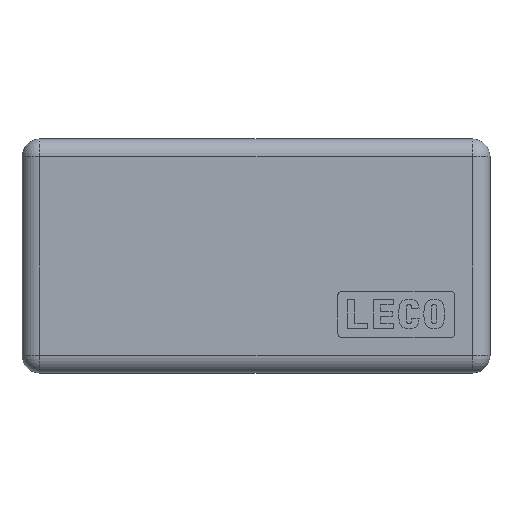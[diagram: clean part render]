
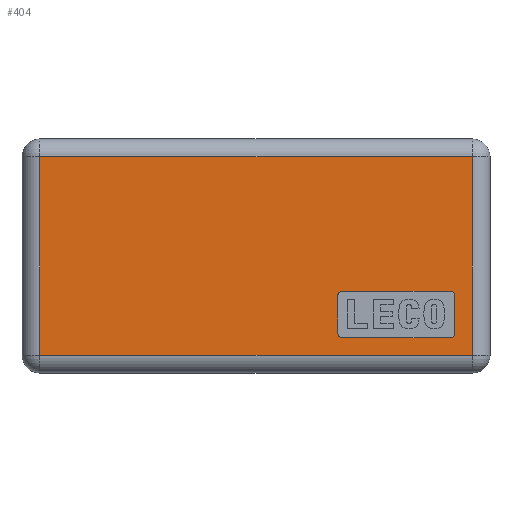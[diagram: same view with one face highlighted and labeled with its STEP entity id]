
A CAD part, top view. The second image highlights one B-rep face of the part: STEP entity #404.
In plain terms, the highlighted planar face has unit normal (0, 0, 1).
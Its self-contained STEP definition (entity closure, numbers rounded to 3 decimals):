
#404=ADVANCED_FACE('',(#825,#826),#827,.F.);
#825=FACE_BOUND('',#1734,.T.);
#826=FACE_OUTER_BOUND('',#1735,.T.);
#827=PLANE('',#1736);
#1734=EDGE_LOOP('',(#2866,#2867,#2868,#2869,#2870,#2871,#2872,#2873));
#1735=EDGE_LOOP('',(#2874,#2875,#2876,#2877));
#1736=AXIS2_PLACEMENT_3D('',#2878,#2879,#2880);
#2866=ORIENTED_EDGE('',*,*,#3111,.F.);
#2867=ORIENTED_EDGE('',*,*,#3474,.F.);
#2868=ORIENTED_EDGE('',*,*,#3088,.F.);
#2869=ORIENTED_EDGE('',*,*,#3385,.F.);
#2870=ORIENTED_EDGE('',*,*,#3189,.F.);
#2871=ORIENTED_EDGE('',*,*,#3453,.F.);
#2872=ORIENTED_EDGE('',*,*,#3098,.F.);
#2873=ORIENTED_EDGE('',*,*,#3448,.F.);
#2874=ORIENTED_EDGE('',*,*,#3407,.T.);
#2875=ORIENTED_EDGE('',*,*,#3023,.F.);
#2876=ORIENTED_EDGE('',*,*,#3233,.F.);
#2877=ORIENTED_EDGE('',*,*,#3245,.T.);
#2878=CARTESIAN_POINT('',(38.5,-17.695,3.));
#2879=DIRECTION('',(0.0,0.0,-1.0));
#2880=DIRECTION('',(0.0,-1.0,0.0));
#3023=EDGE_CURVE('',#3518,#3520,#3521,.T.);
#3088=EDGE_CURVE('',#3636,#3637,#3638,.T.);
#3098=EDGE_CURVE('',#3654,#3655,#3656,.T.);
#3111=EDGE_CURVE('',#3676,#3677,#3678,.T.);
#3189=EDGE_CURVE('',#3803,#3804,#3805,.T.);
#3233=EDGE_CURVE('',#3870,#3518,#3871,.T.);
#3245=EDGE_CURVE('',#3870,#3888,#3889,.T.);
#3385=EDGE_CURVE('',#3804,#3636,#4082,.T.);
#3407=EDGE_CURVE('',#3888,#3520,#4107,.T.);
#3448=EDGE_CURVE('',#3677,#3654,#4154,.T.);
#3453=EDGE_CURVE('',#3655,#3803,#4159,.T.);
#3474=EDGE_CURVE('',#3637,#3676,#4180,.T.);
#3518=VERTEX_POINT('',#4231);
#3520=VERTEX_POINT('',#4233);
#3521=LINE('',#4234,#4235);
#3636=VERTEX_POINT('',#4375);
#3637=VERTEX_POINT('',#4376);
#3638=CIRCLE('',#4377,0.4);
#3654=VERTEX_POINT('',#4399);
#3655=VERTEX_POINT('',#4400);
#3656=CIRCLE('',#4401,0.4);
#3676=VERTEX_POINT('',#4429);
#3677=VERTEX_POINT('',#4430);
#3678=CIRCLE('',#4431,0.4);
#3803=VERTEX_POINT('',#4596);
#3804=VERTEX_POINT('',#4597);
#3805=CIRCLE('',#4598,0.4);
#3870=VERTEX_POINT('',#4684);
#3871=LINE('',#4685,#4686);
#3888=VERTEX_POINT('',#4708);
#3889=LINE('',#4709,#4710);
#4082=LINE('',#4965,#4966);
#4107=LINE('',#5001,#5002);
#4154=LINE('',#5066,#5067);
#4159=LINE('',#5073,#5074);
#4180=LINE('',#5102,#5103);
#4231=CARTESIAN_POINT('',(1.5,18.5,3.));
#4233=CARTESIAN_POINT('',(38.5,18.5,3.));
#4234=CARTESIAN_POINT('',(-5.546,18.5,3.));
#4235=VECTOR('',#5144,1.0);
#4375=CARTESIAN_POINT('',(37.0,6.6,3.));
#4376=CARTESIAN_POINT('',(36.6,7.,3.));
#4377=AXIS2_PLACEMENT_3D('',#5254,#5255,#5256);
#4399=CARTESIAN_POINT('',(27.0,3.4,3.));
#4400=CARTESIAN_POINT('',(27.4,3.,3.));
#4401=AXIS2_PLACEMENT_3D('',#5266,#5267,#5268);
#4429=CARTESIAN_POINT('',(27.4,7.,3.));
#4430=CARTESIAN_POINT('',(27.0,6.6,3.));
#4431=AXIS2_PLACEMENT_3D('',#5280,#5281,#5282);
#4596=CARTESIAN_POINT('',(36.6,3.,3.));
#4597=CARTESIAN_POINT('',(37.0,3.4,3.));
#4598=AXIS2_PLACEMENT_3D('',#5380,#5381,#5382);
#4684=CARTESIAN_POINT('',(1.5,1.5,3.));
#4685=CARTESIAN_POINT('',(1.5,-17.695,3.));
#4686=VECTOR('',#5437,1.0);
#4708=CARTESIAN_POINT('',(38.5,1.5,3.));
#4709=CARTESIAN_POINT('',(-5.546,1.5,3.));
#4710=VECTOR('',#5452,1.0);
#4965=CARTESIAN_POINT('',(37.0,3.4,3.));
#4966=VECTOR('',#5644,1.0);
#5001=CARTESIAN_POINT('',(38.5,-17.695,3.));
#5002=VECTOR('',#5664,1.0);
#5066=CARTESIAN_POINT('',(27.0,6.6,3.));
#5067=VECTOR('',#5712,1.0);
#5073=CARTESIAN_POINT('',(27.4,3.,3.));
#5074=VECTOR('',#5714,1.0);
#5102=CARTESIAN_POINT('',(36.6,7.,3.));
#5103=VECTOR('',#5725,1.0);
#5144=DIRECTION('',(1.0,0.0,0.0));
#5254=CARTESIAN_POINT('',(36.6,6.6,3.));
#5255=DIRECTION('',(0.0,0.0,1.0));
#5256=DIRECTION('',(1.0,0.0,0.0));
#5266=CARTESIAN_POINT('',(27.4,3.4,3.));
#5267=DIRECTION('',(0.0,0.0,1.0));
#5268=DIRECTION('',(1.0,0.0,0.0));
#5280=CARTESIAN_POINT('',(27.4,6.6,3.));
#5281=DIRECTION('',(0.0,0.0,1.0));
#5282=DIRECTION('',(1.0,0.0,0.0));
#5380=CARTESIAN_POINT('',(36.6,3.4,3.));
#5381=DIRECTION('',(0.0,0.0,1.0));
#5382=DIRECTION('',(1.0,0.0,0.0));
#5437=DIRECTION('',(0.0,1.0,0.0));
#5452=DIRECTION('',(1.0,0.0,0.0));
#5644=DIRECTION('',(0.0,1.0,0.0));
#5664=DIRECTION('',(0.0,1.0,0.0));
#5712=DIRECTION('',(0.0,-1.0,0.0));
#5714=DIRECTION('',(1.0,0.0,0.0));
#5725=DIRECTION('',(-1.0,0.,0.0));
